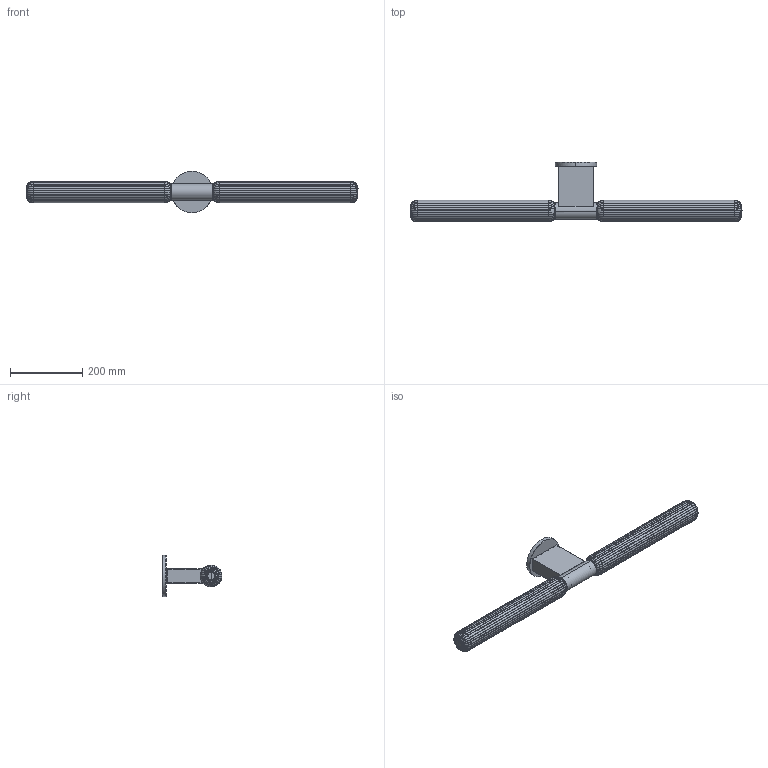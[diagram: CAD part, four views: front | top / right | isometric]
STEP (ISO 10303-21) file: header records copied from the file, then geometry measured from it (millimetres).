
FILE_DESCRIPTION(/* description */ (''),/* implementation_level */ '2;1');
FILE_NAME(/* name */ 'Cipher Wall UL',/* time_stamp */ '2019-01-22T10:48:39+01:00',/* author */ (''),/* organization */ (''),/* preprocessor_version */ 'ST-DEVELOPER v15',/* originating_system */ '',/* authorisation */ '');
FILE_SCHEMA (('AUTOMOTIVE_DESIGN'));
Length unit declared in the file: millimetre
Products named in the file (3): Document; Glass side; Block 16
Assembly tree (2 placements, depth 3):
  Document
    Glass side
      Block 16
Bounding box: 919.5 x 165.54 x 114.3 mm (x, y, z)
Volume: 713387.2 mm3; surface area: 444069.1 mm2
Topology: 7 solids, 7 shells, 557 faces, 1260 edges, 720 vertices
Faces by surface type: bspline 557
Entity records: 44292 total; most frequent: CARTESIAN_POINT 28636, B_SPLINE_CURVE_WITH_KNOTS 2848, ORIENTED_EDGE 2520, PCURVE 2520, DEFINITIONAL_REPRESENTATION 2520, SURFACE_CURVE 1260, EDGE_CURVE 1260, VERTEX_POINT 720
